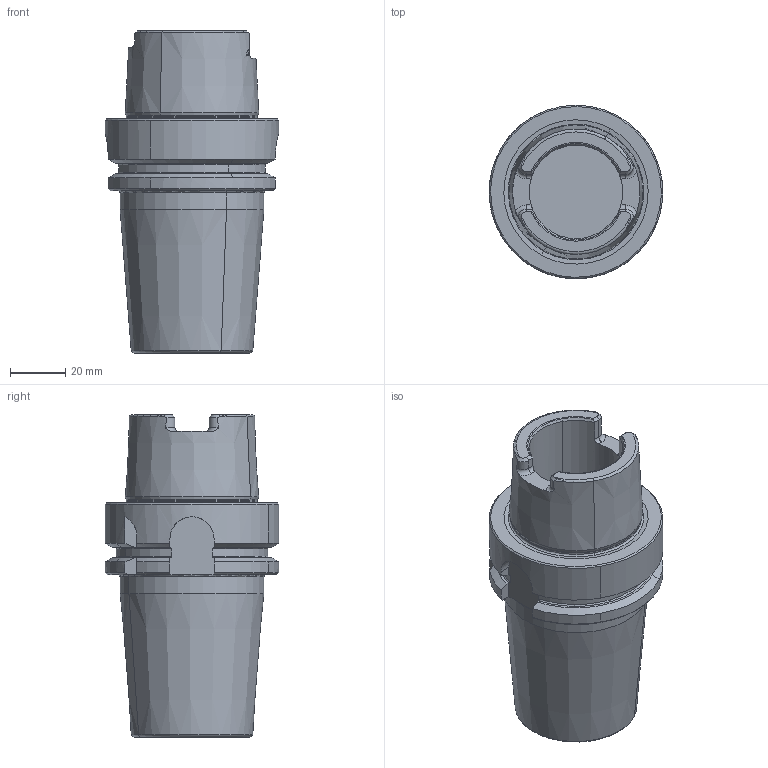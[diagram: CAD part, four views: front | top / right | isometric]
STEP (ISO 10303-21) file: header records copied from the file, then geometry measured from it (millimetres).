
FILE_DESCRIPTION(('CATIA V5 STEP','CAx-IF Rec.Pracs.--- Model Styling and Organization---1.2---2011-12-15'),'2;1');
FILE_NAME('\\nas01\drv1\utils\eitdev\rte\eit\transmagicconvert\db\out\4506031 L.stp','2014-04-02T07:25:38+00:00',('none'),('none'),'CATIA Version 5 Release 21 SP 5 (IN-10)','CATIA V5 STEP AP214','none');
FILE_SCHEMA(('AUTOMOTIVE_DESIGN { 1 0 10303 214 1 1 1 1 }'));
Length unit declared in the file: millimetre
Products named in the file (1): 60935761_0 HSK A 63 SRKIN 25X 85
Bounding box: 62.99 x 63 x 117 mm (x, y, z)
Volume: 198144.6 mm3; surface area: 29498.2 mm2
Topology: 1 solids, 1 shells, 135 faces, 353 edges, 222 vertices
Faces by surface type: plane 42, cone 33, cylinder 32, torus 28
Entity records: 4258 total; most frequent: CARTESIAN_POINT 1327, ORIENTED_EDGE 706, DIRECTION 430, EDGE_CURVE 353, AXIS2_PLACEMENT_3D 231, VERTEX_POINT 222, CIRCLE 151, EDGE_LOOP 137
